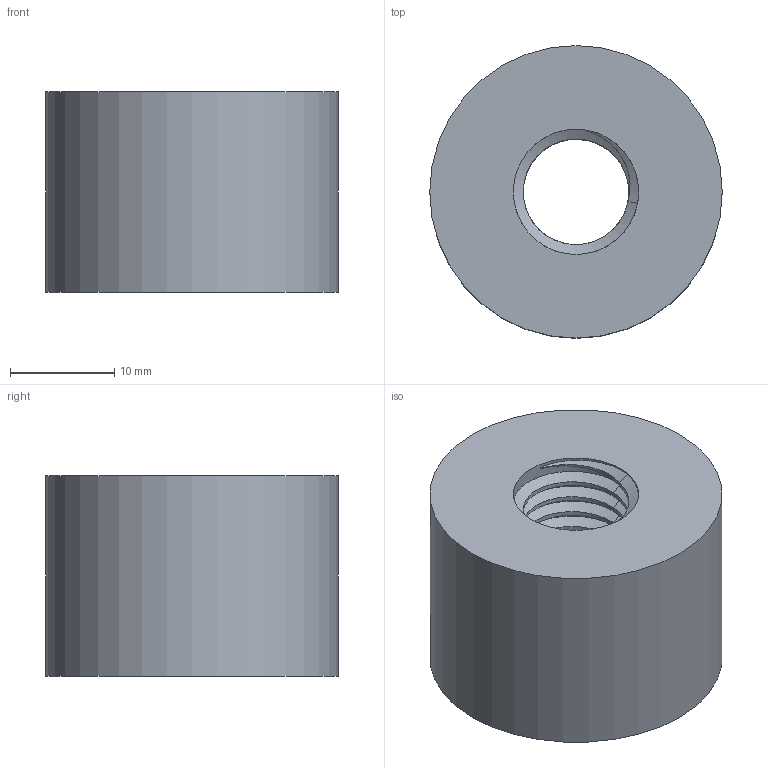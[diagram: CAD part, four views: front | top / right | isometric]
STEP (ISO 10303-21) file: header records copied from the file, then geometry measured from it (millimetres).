
FILE_DESCRIPTION(('Mechanical CAD reference from nasji.com'),'2;1');
FILE_NAME('NASJI.step','',(''),(''),'','NASJI distribution','');
FILE_SCHEMA(('AUTOMOTIVE_DESIGN { 1 0 10303 214 1 1 1 1 }'));
Length unit declared in the file: millimetre
Products named in the file (1): Open CASCADE STEP translator 7.8 229
Bounding box: 28 x 28 x 19.2 mm (x, y, z)
Volume: 9985.6 mm3; surface area: 3748.7 mm2
Topology: 1 solids, 1 shells, 128 faces, 356 edges, 230 vertices
Faces by surface type: bspline 112, cylinder 12, plane 4
Full cylindrical faces by diameter (mm): 12 x11, 28 x1
Entity records: 17356 total; most frequent: CARTESIAN_POINT 12247, ORIENTED_EDGE 712, PCURVE 712, DEFINITIONAL_REPRESENTATION 712, B_SPLINE_CURVE_WITH_KNOTS 674, EDGE_CURVE 356, SURFACE_CURVE 353, DIRECTION 334
